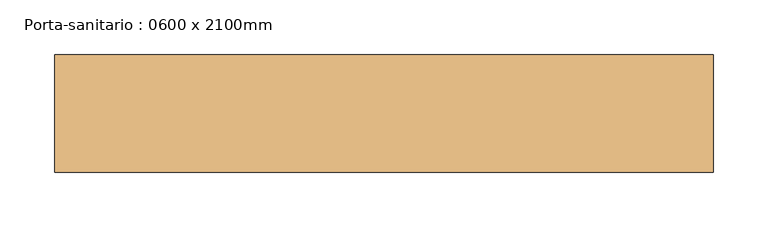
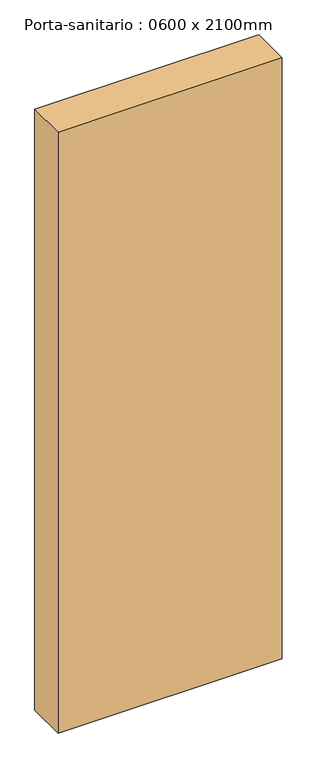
"""IFC4 building model written with IfcOpenShell, lengths in millimetres: door geometry, Porta-sanitario : 0600 x 2100mm."""

from ifc_helpers import new_model, si_unit, frame, origin, place, context, project, spatial, polyline, outline, extrude, source, transform, mapped, element, save


def porta_sanitario_0600_x_2100mm_b459be9e(model_context):
    return source(origin(), model_context, "Body", "SweptSolid", [
        extrude(outline(polyline([(300.0, -31.0), (-300.0, -31.0), (-300.0, 76.2), (300.0, 76.2), (300.0, -31.0)])), frame((0.0, 0.0, 300.0), z_axis=(0.0, 0.0, 1.0), x_axis=(1.0, 0.0, 0.0)), (0.0, 0.0, 1.0), 1700.0),
    ])


if __name__ == "__main__":
    model = new_model("IFC4")
    model_context = context("Model", 3, world=origin())
    ifc_project = project(units=[si_unit("LENGTHUNIT", "METRE", prefix="MILLI")], contexts=[model_context])
    site = spatial("IfcSite", under=ifc_project)
    building = spatial("IfcBuilding", under=site)
    placement = place(None, origin())
    porta_sanitario_0600_x_2100mm_shape = porta_sanitario_0600_x_2100mm_b459be9e(model_context)
    element("IfcDoor", 1, ObjectType="Porta-sanitario : 0600 x 2100mm", at=placement, inside=building, context=model_context, shape_type="MappedRepresentation", body=[
        mapped(porta_sanitario_0600_x_2100mm_shape, transform((0.0, 0.0, 0.0), x_axis=(1.0, 0.0, 0.0), y_axis=(0.0, 1.0, 0.0), z_axis=(0.0, 0.0, 1.0))),
    ])
    save(model, "model.ifc")
